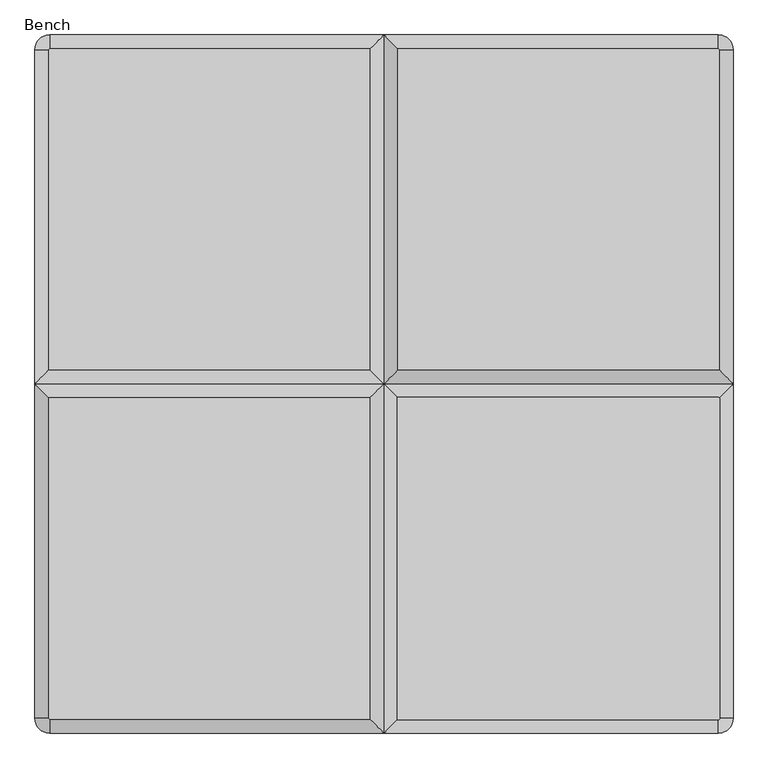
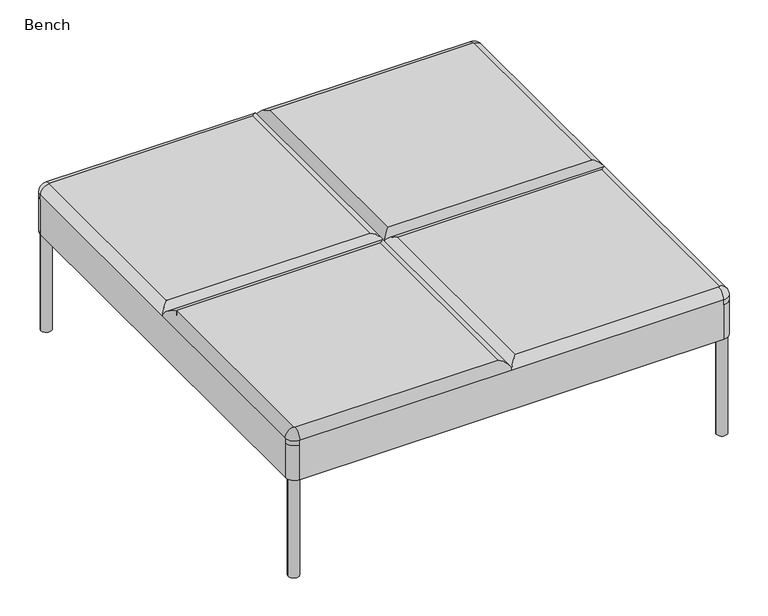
"""IFC4 building model written with IfcOpenShell, lengths in millimetres: furniture geometry, Noora - Bench 2x2 : Bench."""

from ifc_helpers import new_model, si_unit, point, frame, frame_2d, origin, origin_with_axes, place, context, project, spatial, circle_curve, ellipse_curve, trimmed, segment, composite_curve, outline, extrude, source, transform, mapped, element, save
from ifc_brep_helpers import plane_surface, cylinder_surface, revolved_surface, advanced_brep


def bench_bedf77db(model_context):
    return source(origin(), model_context, "Body", "SolidModel", [
        advanced_brep(
        [(1216.0, 594.0, 431.0), (1214.0, 596.0, 431.0), (644.0, 596.0, 431.0), (644.0, 24.0, 431.0), (1214.0, 24.0, 431.0), (1216.0, 26.0, 431.0), (1216.0, 594.0, 393.0), (1214.0, 596.0, 393.0), (1240.0, 26.0, 393.0), (1240.0, 26.0, 407.0), (1214.0, 0.0, 407.0), (1214.0, 0.0, 393.0), (620.0, 0.0, 407.0), (26.0, 0.0, 407.0), (26.0, 0.0, 393.0), (26.0, 0.0, 291.0), (1214.0, 0.0, 291.0), (620.0, 620.0, 407.0), (1216.0, 596.0, 431.0), (1240.0, 620.0, 407.0), (1216.0, 596.0, 393.0), (1240.0, 26.0, 291.0), (1240.0, 1214.0, 291.0), (1240.0, 1214.0, 393.0), (1240.0, 1214.0, 407.0), (26.0, 596.0, 393.0), (24.0, 596.0, 393.0), (24.0, 594.0, 393.0), (24.0, 646.0, 393.0), (24.0, 644.0, 393.0), (26.0, 644.0, 393.0), (1214.0, 644.0, 393.0), (1216.0, 644.0, 393.0), (1216.0, 646.0, 393.0), (1214.0, 1240.0, 291.0), (0.0, 26.0, 291.0), (0.0, 1214.0, 291.0), (26.0, 1240.0, 291.0), (26.0, 1240.0, 393.0), (26.0, 1240.0, 407.0), (620.0, 1240.0, 407.0), (1214.0, 1240.0, 407.0), (1214.0, 1240.0, 393.0), (0.0, 1214.0, 393.0), (0.0, 26.0, 393.0), (0.0, 26.0, 407.0), (0.0, 620.0, 407.0), (0.0, 1214.0, 407.0), (26.0, 24.0, 431.0), (24.0, 26.0, 431.0), (596.0, 24.0, 431.0), (596.0, 596.0, 431.0), (24.0, 596.0, 431.0), (26.0, 596.0, 431.0), (24.0, 594.0, 431.0), (24.0, 1214.0, 431.0), (26.0, 1216.0, 431.0), (596.0, 1216.0, 431.0), (596.0, 644.0, 431.0), (26.0, 644.0, 431.0), (24.0, 644.0, 431.0), (24.0, 646.0, 431.0), (1214.0, 1216.0, 431.0), (1216.0, 1214.0, 431.0), (644.0, 1216.0, 431.0), (644.0, 644.0, 431.0), (1216.0, 644.0, 431.0), (1214.0, 644.0, 431.0), (1216.0, 646.0, 431.0)],
        [
            (0, 1, circle_curve(frame((1214.0, 594.0, 431.0), z_axis=(0.0, 0.0, 1.0), x_axis=(0.0, 1.0, 0.0)), 2.0)),
            (1, 2),
            (2, 3),
            (3, 4),
            (4, 5, circle_curve(frame((1214.0, 26.0, 431.0), z_axis=(0.0, 0.0, 1.0), x_axis=(1.0, 0.0, 0.0)), 2.0)),
            (5, 0),
            (0, 6),
            (6, 7, circle_curve(frame((1214.0, 594.0, 393.0), z_axis=(0.0, 0.0, 1.0), x_axis=(0.0, 1.0, 0.0)), 2.0)),
            (7, 1),
            (8, 9),
            (9, 10, circle_curve(frame((1214.0, 26.0, 407.0), z_axis=(0.0, 0.0, -1.0), x_axis=(1.0, 0.0, 0.0)), 26.0)),
            (10, 11),
            (11, 8, circle_curve(frame((1214.0, 26.0, 393.0), z_axis=(0.0, 0.0, 1.0), x_axis=(1.0, 0.0, 0.0)), 26.0)),
            (9, 5, circle_curve(frame((1216.0, 26.0, 407.0), z_axis=(0.0, -1.0, 0.0), x_axis=(-1.0, 0.0, 0.0)), 24.0)),
            (4, 10, circle_curve(frame((1214.0, 24.0, 407.0), z_axis=(1.0, 0.0, 0.0), x_axis=(0.0, 1.0, 0.0)), 24.0)),
            (10, 12),
            (12, 13),
            (13, 14),
            (14, 15),
            (15, 16),
            (16, 11),
            (3, 12, ellipse_curve(frame((644.0, 24.0, 407.0), z_axis=(0.7071067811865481, -0.7071067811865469, 0.0), x_axis=(0.7071067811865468, 0.7071067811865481, 0.0)), 33.9411255, 24.0)),
            (2, 17, ellipse_curve(frame((644.0, 596.0, 407.0), z_axis=(-0.7071067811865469, -0.7071067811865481, 0.0), x_axis=(0.7071067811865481, -0.7071067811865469, 0.0)), 33.9411255, 24.0)),
            (17, 12),
            (1, 18),
            (18, 19, ellipse_curve(frame((1216.0, 596.0, 407.0), z_axis=(-0.7071067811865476, 0.7071067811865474, 0.0), x_axis=(-0.7071067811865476, -0.7071067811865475, 0.0)), 33.9411255, 24.0)),
            (19, 17),
            (20, 18),
            (7, 20),
            (8, 21),
            (21, 22),
            (22, 23),
            (23, 24),
            (24, 19),
            (19, 9),
            (18, 0),
            (20, 6),
            (25, 26),
            (26, 27),
            (27, 25, circle_curve(frame((26.0, 594.0, 393.0), z_axis=(0.0, 0.0, -1.0), x_axis=(0.0, 1.0, 0.0)), 2.0)),
            (28, 29),
            (29, 30),
            (30, 28, circle_curve(frame((26.0, 646.0, 393.0), z_axis=(0.0, 0.0, -1.0), x_axis=(0.0, -1.0, 0.0)), 2.0)),
            (31, 32),
            (32, 33),
            (33, 31, circle_curve(frame((1214.0, 646.0, 393.0), z_axis=(0.0, 0.0, -1.0), x_axis=(0.0, -1.0, 0.0)), 2.0)),
            (34, 22, circle_curve(frame((1214.0, 1214.0, 291.0), z_axis=(0.0, 0.0, -1.0), x_axis=(1.0, 0.0, 0.0)), 26.0)),
            (21, 16, circle_curve(frame((1214.0, 26.0, 291.0), z_axis=(0.0, 0.0, -1.0), x_axis=(1.0, 0.0, 0.0)), 26.0)),
            (15, 35, circle_curve(frame((26.0, 26.0, 291.0), z_axis=(0.0, 0.0, -1.0), x_axis=(1.0, 0.0, 0.0)), 26.0)),
            (35, 36),
            (36, 37, circle_curve(frame((26.0, 1214.0, 291.0), z_axis=(0.0, 0.0, -1.0), x_axis=(1.0, 0.0, 0.0)), 26.0)),
            (37, 34),
            (37, 38),
            (38, 39),
            (39, 40),
            (40, 41),
            (41, 42),
            (42, 34),
            (36, 43),
            (43, 38, circle_curve(frame((26.0, 1214.0, 393.0), z_axis=(0.0, 0.0, -1.0), x_axis=(1.0, 0.0, 0.0)), 26.0)),
            (35, 44),
            (44, 45),
            (45, 46),
            (46, 47),
            (47, 43),
            (14, 44, circle_curve(frame((26.0, 26.0, 393.0), z_axis=(0.0, 0.0, -1.0), x_axis=(1.0, 0.0, 0.0)), 26.0)),
            (42, 23, circle_curve(frame((1214.0, 1214.0, 393.0), z_axis=(0.0, 0.0, -1.0), x_axis=(1.0, 0.0, 0.0)), 26.0)),
            (13, 45, circle_curve(frame((26.0, 26.0, 407.0), z_axis=(0.0, 0.0, -1.0), x_axis=(-1.0, 0.0, 0.0)), 26.0)),
            (13, 48, circle_curve(frame((26.0, 24.0, 407.0), z_axis=(-1.0, 0.0, 0.0), x_axis=(0.0, 1.0, 0.0)), 24.0)),
            (48, 49, circle_curve(frame((26.0, 26.0, 431.0), z_axis=(0.0, 0.0, -1.0), x_axis=(-1.0, 0.0, 0.0)), 2.0)),
            (49, 45, circle_curve(frame((24.0, 26.0, 407.0), z_axis=(0.0, -1.0, 0.0), x_axis=(1.0, 0.0, 0.0)), 24.0)),
            (12, 50, ellipse_curve(frame((596.0, 24.0, 407.0), z_axis=(-0.7071067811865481, -0.7071067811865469, 0.0), x_axis=(-0.7071067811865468, 0.7071067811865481, 0.0)), 33.9411255, 24.0)),
            (50, 48),
            (17, 51, ellipse_curve(frame((596.0, 596.0, 407.0), z_axis=(0.7071067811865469, -0.7071067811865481, 0.0), x_axis=(-0.7071067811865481, -0.7071067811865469, 0.0)), 33.9411255, 24.0)),
            (51, 50),
            (17, 46),
            (46, 52, ellipse_curve(frame((24.0, 596.0, 407.0), z_axis=(0.7071067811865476, 0.7071067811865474, 0.0), x_axis=(0.7071067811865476, -0.7071067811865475, 0.0)), 33.9411255, 24.0)),
            (52, 53),
            (53, 51),
            (52, 26),
            (25, 53),
            (49, 54),
            (54, 52),
            (54, 27),
            (53, 54, circle_curve(frame((26.0, 594.0, 431.0), z_axis=(0.0, 0.0, 1.0), x_axis=(0.0, 1.0, 0.0)), 2.0)),
            (47, 39, circle_curve(frame((26.0, 1214.0, 407.0), z_axis=(0.0, 0.0, -1.0), x_axis=(-1.0, 0.0, 0.0)), 26.0)),
            (47, 55, circle_curve(frame((24.0, 1214.0, 407.0), z_axis=(0.0, 1.0, 0.0), x_axis=(1.0, 0.0, 0.0)), 24.0)),
            (55, 56, circle_curve(frame((26.0, 1214.0, 431.0), z_axis=(0.0, 0.0, -1.0), x_axis=(-1.0, 0.0, 0.0)), 2.0)),
            (56, 39, circle_curve(frame((26.0, 1216.0, 407.0), z_axis=(-1.0, 0.0, 0.0), x_axis=(0.0, -1.0, 0.0)), 24.0)),
            (56, 57),
            (57, 40, ellipse_curve(frame((596.0, 1216.0, 407.0), z_axis=(-0.7071067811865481, 0.7071067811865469, 0.0), x_axis=(-0.7071067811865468, -0.7071067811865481, 0.0)), 33.9411255, 24.0)),
            (57, 58),
            (58, 17, ellipse_curve(frame((596.0, 644.0, 407.0), z_axis=(0.7071067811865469, 0.7071067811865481, 0.0), x_axis=(-0.7071067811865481, 0.7071067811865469, 0.0)), 33.9411255, 24.0)),
            (17, 40),
            (58, 59),
            (59, 60),
            (60, 46, ellipse_curve(frame((24.0, 644.0, 407.0), z_axis=(0.7071067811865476, -0.7071067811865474, 0.0), x_axis=(0.7071067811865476, 0.7071067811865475, 0.0)), 33.9411255, 24.0)),
            (29, 60),
            (59, 30),
            (60, 61),
            (61, 55),
            (28, 61),
            (41, 24, circle_curve(frame((1214.0, 1214.0, 407.0), z_axis=(0.0, 0.0, -1.0), x_axis=(1.0, 0.0, 0.0)), 26.0)),
            (41, 62, circle_curve(frame((1214.0, 1216.0, 407.0), z_axis=(1.0, 0.0, 0.0), x_axis=(0.0, -1.0, 0.0)), 24.0)),
            (62, 63, circle_curve(frame((1214.0, 1214.0, 431.0), z_axis=(0.0, 0.0, -1.0), x_axis=(1.0, 0.0, 0.0)), 2.0)),
            (63, 24, circle_curve(frame((1216.0, 1214.0, 407.0), z_axis=(0.0, 1.0, 0.0), x_axis=(-1.0, 0.0, 0.0)), 24.0)),
            (40, 64, ellipse_curve(frame((644.0, 1216.0, 407.0), z_axis=(0.7071067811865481, 0.7071067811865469, 0.0), x_axis=(0.7071067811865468, -0.7071067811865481, 0.0)), 33.9411255, 24.0)),
            (64, 62),
            (17, 65, ellipse_curve(frame((644.0, 644.0, 407.0), z_axis=(-0.7071067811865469, 0.7071067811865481, 0.0), x_axis=(0.7071067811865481, 0.7071067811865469, 0.0)), 33.9411255, 24.0)),
            (65, 64),
            (19, 66, ellipse_curve(frame((1216.0, 644.0, 407.0), z_axis=(-0.7071067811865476, -0.7071067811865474, 0.0), x_axis=(-0.7071067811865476, 0.7071067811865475, 0.0)), 33.9411255, 24.0)),
            (66, 67),
            (67, 65),
            (66, 32),
            (31, 67),
            (63, 68),
            (68, 66),
            (68, 33),
            (61, 59, circle_curve(frame((26.0, 646.0, 431.0), z_axis=(0.0, 0.0, 1.0), x_axis=(0.0, -1.0, 0.0)), 2.0)),
            (67, 68, circle_curve(frame((1214.0, 646.0, 431.0), z_axis=(0.0, 0.0, 1.0), x_axis=(0.0, -1.0, 0.0)), 2.0)),
        ],
        [
            plane_surface(frame((1214.0, 596.0, 431.0), z_axis=(0.0, 0.0, 1.0), x_axis=(-1.0, 0.0, 0.0))),
            cylinder_surface(frame((1214.0, 594.0, 393.0), z_axis=(0.0, 0.0, 1.0), x_axis=(0.0, 1.0, 0.0)), 2.0),
            cylinder_surface(frame((1214.0, 26.0, 393.0), z_axis=(0.0, 0.0, -1.0), x_axis=(1.0, 0.0, 0.0)), 26.0),
            revolved_surface(trimmed(ellipse_curve(frame((1216.0, 26.0, 407.0), z_axis=(0.0, 1.0, 0.0), x_axis=(-1.0, 0.0, 0.0)), 24.0, 24.0), [point((1216.0, 26.0, 431.0))], [point((1240.0, 26.0, 407.0))], True, "CARTESIAN"), (1214.0, 26.0, 393.0), (0.0, 0.0, -1.0)),
            plane_surface(frame((1214.0, 0.0, 407.0), z_axis=(0.0, -1.0, 0.0), x_axis=(-1.0, 0.0, 0.0))),
            cylinder_surface(frame((1214.0, 24.0, 407.0), z_axis=(1.0, 0.0, 0.0), x_axis=(0.0, 1.0, 0.0)), 24.0),
            cylinder_surface(frame((644.0, 0.0, 407.0), z_axis=(0.0, -1.0, 0.0), x_axis=(1.0, 0.0, 0.0)), 24.0),
            cylinder_surface(frame((620.0, 596.0, 407.0), z_axis=(-1.0, 0.0, 0.0), x_axis=(0.0, -1.0, 0.0)), 24.0),
            plane_surface(frame((644.0, 596.0, 393.0), z_axis=(0.0, -1.0, 0.0), x_axis=(1.0, 0.0, 0.0))),
            plane_surface(frame((1240.0, 620.0, 407.0), z_axis=(1.0, 0.0, 0.0), x_axis=(0.0, -1.0, 0.0))),
            cylinder_surface(frame((1216.0, 620.0, 407.0), z_axis=(0.0, 1.0, 0.0), x_axis=(-1.0, 0.0, 0.0)), 24.0),
            plane_surface(frame((1216.0, 596.0, 393.0), z_axis=(-1.0, 0.0, 0.0), x_axis=(0.0, -1.0, 0.0))),
            plane_surface(frame((42.5804246, 1240.0, 393.0), z_axis=(0.0, 0.0, 1.0), x_axis=(-1.0, 0.0, 0.0))),
            plane_surface(frame((42.5804246, 1240.0, 291.0), z_axis=(0.0, 0.0, -1.0), x_axis=(1.0, 0.0, 0.0))),
            plane_surface(frame((1214.0, 1240.0, 393.0), z_axis=(0.0, 1.0, 0.0), x_axis=(0.0, 0.0, -1.0))),
            cylinder_surface(frame((26.0, 1214.0, 291.0), z_axis=(0.0, 0.0, 1.0), x_axis=(1.0, 0.0, 0.0)), 26.0),
            plane_surface(frame((0.0, 1214.0, 393.0), z_axis=(-1.0, 0.0, 0.0), x_axis=(0.0, 0.0, -1.0))),
            cylinder_surface(frame((26.0, 26.0, 291.0), z_axis=(0.0, 0.0, 1.0), x_axis=(1.0, 0.0, 0.0)), 26.0),
            cylinder_surface(frame((1214.0, 26.0, 291.0), z_axis=(0.0, 0.0, 1.0), x_axis=(1.0, 0.0, 0.0)), 26.0),
            cylinder_surface(frame((1214.0, 1214.0, 291.0), z_axis=(0.0, 0.0, 1.0), x_axis=(1.0, 0.0, 0.0)), 26.0),
            cylinder_surface(frame((26.0, 26.0, 393.0), z_axis=(0.0, 0.0, 1.0), x_axis=(-1.0, 0.0, 0.0)), 26.0),
            revolved_surface(trimmed(ellipse_curve(frame((24.0, 26.0, 407.0), z_axis=(0.0, 1.0, 0.0), x_axis=(1.0, 0.0, 0.0)), 24.0, 24.0), [point((0.0, 26.0, 407.0))], [point((24.0, 26.0, 431.0))], True, "CARTESIAN"), (26.0, 26.0, 393.0), (0.0, 0.0, 1.0)),
            cylinder_surface(frame((26.0, 24.0, 407.0), z_axis=(-1.0, 0.0, 0.0), x_axis=(0.0, 1.0, 0.0)), 24.0),
            cylinder_surface(frame((596.0, 0.0, 407.0), z_axis=(0.0, -1.0, 0.0), x_axis=(-1.0, 0.0, 0.0)), 24.0),
            cylinder_surface(frame((620.0, 596.0, 407.0), z_axis=(1.0, 0.0, 0.0), x_axis=(0.0, -1.0, 0.0)), 24.0),
            plane_surface(frame((596.0, 596.0, 431.0), z_axis=(0.0, -1.0, 0.0), x_axis=(-1.0, 0.0, 0.0))),
            cylinder_surface(frame((24.0, 620.0, 407.0), z_axis=(0.0, 1.0, 0.0), x_axis=(1.0, 0.0, 0.0)), 24.0),
            plane_surface(frame((24.0, 596.0, 431.0), z_axis=(1.0, 0.0, 0.0), x_axis=(0.0, -1.0, 0.0))),
            plane_surface(frame((24.0, 40.0, 431.0), z_axis=(0.0, 0.0, 1.0), x_axis=(0.0, -1.0, 0.0))),
            cylinder_surface(frame((26.0, 594.0, 393.0), z_axis=(0.0, 0.0, 1.0), x_axis=(0.0, 1.0, 0.0)), 2.0),
            cylinder_surface(frame((26.0, 1214.0, 393.0), z_axis=(0.0, 0.0, -1.0), x_axis=(-1.0, 0.0, 0.0)), 26.0),
            revolved_surface(trimmed(ellipse_curve(frame((24.0, 1214.0, 407.0), z_axis=(0.0, -1.0, 0.0), x_axis=(1.0, 0.0, 0.0)), 24.0, 24.0), [point((24.0, 1214.0, 431.0))], [point((0.0, 1214.0, 407.0))], True, "CARTESIAN"), (26.0, 1214.0, 393.0), (0.0, 0.0, -1.0)),
            cylinder_surface(frame((26.0, 1216.0, 407.0), z_axis=(-1.0, 0.0, 0.0), x_axis=(0.0, -1.0, 0.0)), 24.0),
            cylinder_surface(frame((596.0, 1240.0, 407.0), z_axis=(0.0, 1.0, 0.0), x_axis=(-1.0, 0.0, 0.0)), 24.0),
            cylinder_surface(frame((620.0, 644.0, 407.0), z_axis=(1.0, 0.0, 0.0), x_axis=(0.0, 1.0, 0.0)), 24.0),
            plane_surface(frame((596.0, 644.0, 393.0), z_axis=(0.0, 1.0, 0.0), x_axis=(-1.0, 0.0, 0.0))),
            cylinder_surface(frame((24.0, 620.0, 407.0), z_axis=(0.0, -1.0, 0.0), x_axis=(1.0, 0.0, 0.0)), 24.0),
            plane_surface(frame((24.0, 644.0, 393.0), z_axis=(1.0, 0.0, 0.0), x_axis=(0.0, 1.0, 0.0))),
            cylinder_surface(frame((1214.0, 1214.0, 393.0), z_axis=(0.0, 0.0, 1.0), x_axis=(1.0, 0.0, 0.0)), 26.0),
            revolved_surface(trimmed(ellipse_curve(frame((1216.0, 1214.0, 407.0), z_axis=(0.0, -1.0, 0.0), x_axis=(-1.0, 0.0, 0.0)), 24.0, 24.0), [point((1240.0, 1214.0, 407.0))], [point((1216.0, 1214.0, 431.0))], True, "CARTESIAN"), (1214.0, 1214.0, 393.0), (0.0, 0.0, 1.0)),
            cylinder_surface(frame((1214.0, 1216.0, 407.0), z_axis=(1.0, 0.0, 0.0), x_axis=(0.0, -1.0, 0.0)), 24.0),
            cylinder_surface(frame((644.0, 1240.0, 407.0), z_axis=(0.0, 1.0, 0.0), x_axis=(1.0, 0.0, 0.0)), 24.0),
            cylinder_surface(frame((620.0, 644.0, 407.0), z_axis=(-1.0, 0.0, 0.0), x_axis=(0.0, 1.0, 0.0)), 24.0),
            plane_surface(frame((644.0, 644.0, 431.0), z_axis=(0.0, 1.0, 0.0), x_axis=(1.0, 0.0, 0.0))),
            cylinder_surface(frame((1216.0, 620.0, 407.0), z_axis=(0.0, -1.0, 0.0), x_axis=(-1.0, 0.0, 0.0)), 24.0),
            plane_surface(frame((1216.0, 644.0, 431.0), z_axis=(-1.0, 0.0, 0.0), x_axis=(0.0, 1.0, 0.0))),
            plane_surface(frame((26.0, 644.0, 431.0), z_axis=(0.0, 0.0, 1.0), x_axis=(1.0, 0.0, 0.0))),
            cylinder_surface(frame((26.0, 646.0, 393.0), z_axis=(0.0, 0.0, 1.0), x_axis=(0.0, -1.0, 0.0)), 2.0),
            plane_surface(frame((1216.0, 1200.0, 431.0), z_axis=(0.0, 0.0, 1.0), x_axis=(0.0, 1.0, 0.0))),
            cylinder_surface(frame((1214.0, 646.0, 393.0), z_axis=(0.0, 0.0, 1.0), x_axis=(0.0, -1.0, 0.0)), 2.0),
        ],
        [
            (0, [[1, 2, 3, 4, 5, 6]]),
            (1, [[-1, 7, 8, 9]]),
            (2, [[10, 11, 12, 13]]),
            (3, [[-11, 14, -5, 15]]),
            (4, [[-12, 16, 17, 18, 19, 20, 21]]),
            (5, [[-15, -4, 22, -16]]),
            (6, [[-22, -3, 23, 24]]),
            (7, [[-23, -2, 25, 26, 27]]),
            (8, [[28, -25, -9, 29]]),
            (9, [[-10, 30, 31, 32, 33, 34, 35]]),
            (10, [[-14, -35, -26, 36, -6]]),
            (11, [[-28, 37, -7, -36]]),
            (12, [[-8, -37, -29]]),
            (12, [[38, 39, 40]]),
            (12, [[41, 42, 43]]),
            (12, [[44, 45, 46]]),
            (13, [[47, -31, 48, -20, 49, 50, 51, 52]]),
            (14, [[-52, 53, 54, 55, 56, 57, 58]]),
            (15, [[-51, 59, 60, -53]]),
            (16, [[-50, 61, 62, 63, 64, 65, -59]]),
            (17, [[-49, -19, 66, -61]]),
            (18, [[-48, -30, -13, -21]]),
            (19, [[-47, -58, 67, -32]]),
            (20, [[68, -62, -66, -18]]),
            (21, [[-68, 69, 70, 71]]),
            (22, [[-69, -17, 72, 73]]),
            (23, [[-72, -24, 74, 75]]),
            (24, [[-74, 76, 77, 78, 79]]),
            (25, [[80, -38, 81, -78]]),
            (26, [[-71, 82, 83, -77, -63]]),
            (27, [[-80, -83, 84, -39]]),
            (28, [[85, -82, -70, -73, -75, -79]]),
            (29, [[-85, -81, -40, -84]]),
            (30, [[-65, 86, -54, -60]]),
            (31, [[-86, 87, 88, 89]]),
            (32, [[-89, 90, 91, -55]]),
            (33, [[-91, 92, 93, 94]]),
            (34, [[-93, 95, 96, 97, -76]]),
            (35, [[98, -96, 99, -42]]),
            (36, [[-87, -64, -97, 100, 101]]),
            (37, [[-98, -41, 102, -100]]),
            (38, [[103, -33, -67, -57]]),
            (39, [[-103, 104, 105, 106]]),
            (40, [[-104, -56, 107, 108]]),
            (41, [[-107, -94, 109, 110]]),
            (42, [[-109, -27, 111, 112, 113]]),
            (43, [[114, -44, 115, -112]]),
            (44, [[-106, 116, 117, -111, -34]]),
            (45, [[-114, -117, 118, -45]]),
            (46, [[119, -95, -92, -90, -88, -101]]),
            (47, [[-119, -102, -43, -99]]),
            (48, [[120, -116, -105, -108, -110, -113]]),
            (49, [[-120, -115, -46, -118]]),
        ],
    ),
        extrude(outline(composite_curve([segment(trimmed(circle_curve(frame_2d((20.0, 1220.0)), 15.0), [point((5.0, 1220.0))], [point((35.0, 1220.0))], False, "CARTESIAN"), True, "CONTINUOUS"), segment(trimmed(circle_curve(frame_2d((20.0, 1220.0)), 15.0), [point((35.0, 1220.0))], [point((5.0, 1220.0))], False, "CARTESIAN"), True, "CONTINUOUS")], self_intersect=False)), origin_with_axes(), (0.0, 0.0, 1.0), 290.0),
        extrude(outline(composite_curve([segment(trimmed(circle_curve(frame_2d((20.0, 20.0)), 15.0), [point((5.0, 20.0))], [point((35.0, 20.0))], False, "CARTESIAN"), True, "CONTINUOUS"), segment(trimmed(circle_curve(frame_2d((20.0, 20.0)), 15.0), [point((35.0, 20.0))], [point((5.0, 20.0))], False, "CARTESIAN"), True, "CONTINUOUS")], self_intersect=False)), origin_with_axes(), (0.0, 0.0, 1.0), 290.0),
        extrude(outline(composite_curve([segment(trimmed(circle_curve(frame_2d((1220.0, 20.0)), 15.0), [point((1205.0, 20.0))], [point((1235.0, 20.0))], False, "CARTESIAN"), True, "CONTINUOUS"), segment(trimmed(circle_curve(frame_2d((1220.0, 20.0)), 15.0), [point((1235.0, 20.0))], [point((1205.0, 20.0))], False, "CARTESIAN"), True, "CONTINUOUS")], self_intersect=False)), origin_with_axes(), (0.0, 0.0, 1.0), 290.0),
        extrude(outline(composite_curve([segment(trimmed(circle_curve(frame_2d((1220.0, 1220.0)), 15.0), [point((1205.0, 1220.0))], [point((1235.0, 1220.0))], False, "CARTESIAN"), True, "CONTINUOUS"), segment(trimmed(circle_curve(frame_2d((1220.0, 1220.0)), 15.0), [point((1235.0, 1220.0))], [point((1205.0, 1220.0))], False, "CARTESIAN"), True, "CONTINUOUS")], self_intersect=False)), origin_with_axes(), (0.0, 0.0, 1.0), 290.0),
    ])


if __name__ == "__main__":
    model = new_model("IFC4")
    model_context = context("Model", 3, world=origin())
    ifc_project = project(units=[si_unit("LENGTHUNIT", "METRE", prefix="MILLI")], contexts=[model_context])
    site = spatial("IfcSite", under=ifc_project)
    building = spatial("IfcBuilding", under=site)
    placement = place(None, origin())
    bench_shape = bench_bedf77db(model_context)
    element("IfcFurniture", 1, ObjectType="Noora - Bench 2x2 : Bench", at=placement, inside=building, context=model_context, shape_type="MappedRepresentation", body=[
        mapped(bench_shape, transform((0.0, 0.0, 0.0), x_axis=(1.0, 0.0, 0.0), y_axis=(0.0, 1.0, 0.0), z_axis=(0.0, 0.0, 1.0))),
    ])
    save(model, "model.ifc")
